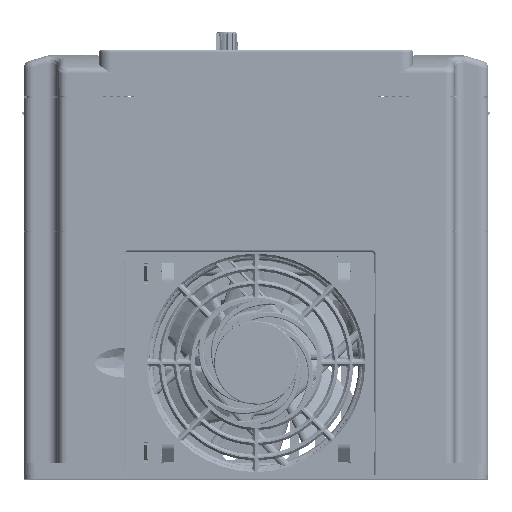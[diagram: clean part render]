
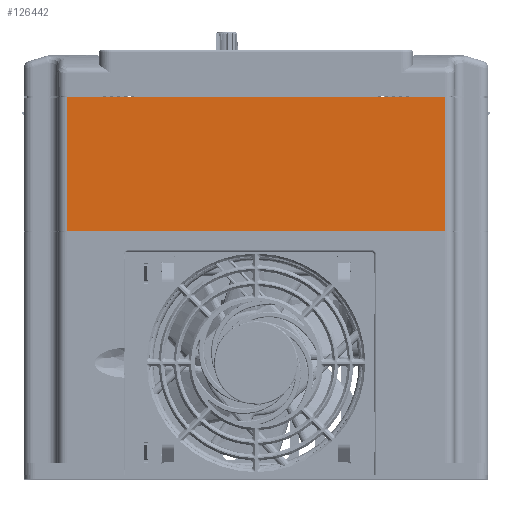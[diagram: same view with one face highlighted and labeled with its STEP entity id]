
A CAD part, top view. The second image highlights one B-rep face of the part: STEP entity #126442.
In plain terms, the highlighted planar face has unit normal (0, 0, 1) as drawn and (1, 0, 0) by its records, which use the part's own axes.
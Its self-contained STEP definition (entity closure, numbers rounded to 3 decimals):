
#83076=DIRECTION('',(0.,1.,0.));
#83077=VECTOR('',#83076,163.);
#83078=CARTESIAN_POINT('',(170.3,-81.5,0.5));
#83079=LINE('',#83078,#83077);
#83403=DIRECTION('',(0.,1.,0.));
#83404=VECTOR('',#83403,163.);
#83405=CARTESIAN_POINT('',(170.3,-81.5,57.8));
#83406=LINE('',#83405,#83404);
#89076=DIRECTION('',(0.,0.,-1.));
#89077=VECTOR('',#89076,57.3);
#89078=CARTESIAN_POINT('',(170.3,-81.5,57.8));
#89079=LINE('',#89078,#89077);
#89080=DIRECTION('',(0.,0.,1.));
#89081=VECTOR('',#89080,57.3);
#89082=CARTESIAN_POINT('',(170.3,81.5,0.5));
#89083=LINE('',#89082,#89081);
#113912=CARTESIAN_POINT('',(170.3,-81.5,57.8));
#113914=VERTEX_POINT('',#113912);
#113915=CARTESIAN_POINT('',(170.3,81.5,57.8));
#113917=VERTEX_POINT('',#113915);
#113945=CARTESIAN_POINT('',(170.3,-81.5,0.5));
#113946=VERTEX_POINT('',#113945);
#113949=CARTESIAN_POINT('',(170.3,81.5,0.5));
#113950=VERTEX_POINT('',#113949);
#126430=CARTESIAN_POINT('',(170.3,-100.,0.));
#126431=DIRECTION('',(1.,0.,0.));
#126432=DIRECTION('',(0.,1.,0.));
#126433=AXIS2_PLACEMENT_3D('',#126430,#126431,#126432);
#126434=PLANE('',#126433);
#126436=ORIENTED_EDGE('',*,*,#126435,.F.);
#126437=ORIENTED_EDGE('',*,*,#120751,.T.);
#126438=ORIENTED_EDGE('',*,*,#126424,.F.);
#126439=ORIENTED_EDGE('',*,*,#120536,.F.);
#126440=EDGE_LOOP('',(#126436,#126437,#126438,#126439));
#126441=FACE_OUTER_BOUND('',#126440,.F.);
#120536=EDGE_CURVE('',#113946,#113950,#83079,.T.);
#120751=EDGE_CURVE('',#113914,#113917,#83406,.T.);
#126424=EDGE_CURVE('',#113950,#113917,#89083,.T.);
#126435=EDGE_CURVE('',#113914,#113946,#89079,.T.);
#126442=ADVANCED_FACE('',(#126441),#126434,.T.);
